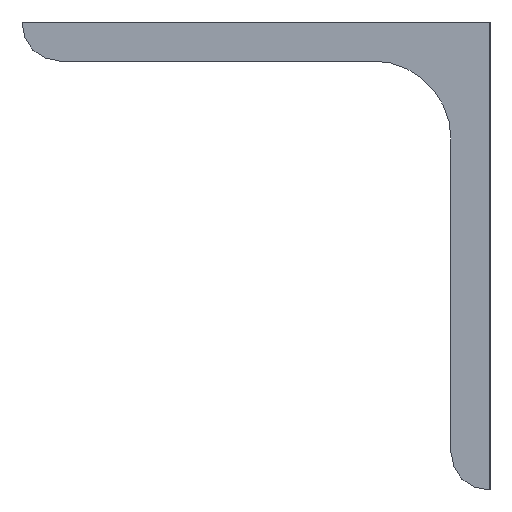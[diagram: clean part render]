
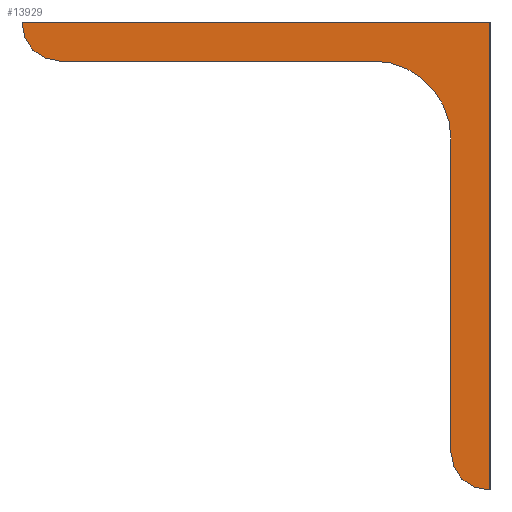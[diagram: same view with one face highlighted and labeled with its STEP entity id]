
A CAD part, left-side view. The second image highlights one B-rep face of the part: STEP entity #13929.
In plain terms, the highlighted planar face has unit normal (-1, 0, 0).
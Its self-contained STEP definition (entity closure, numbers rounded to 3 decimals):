
#345 = CARTESIAN_POINT ( 'NONE',  ( 0., 0., 0. ) ) ;
#383 = CIRCLE ( 'NONE', #10941, 2.4 ) ;
#804 = VERTEX_POINT ( 'NONE', #3415 ) ;
#886 = CARTESIAN_POINT ( 'NONE',  ( 0., 0., -30. ) ) ;
#893 = EDGE_CURVE ( 'NONE', #13852, #804, #10634, .T. ) ;
#1352 = VECTOR ( 'NONE', #13315, 1000. ) ;
#1358 = CARTESIAN_POINT ( 'NONE',  ( 0., 30., -0.1 ) ) ;
#1680 = EDGE_CURVE ( 'NONE', #13936, #5969, #383, .T. ) ;
#1683 = DIRECTION ( 'NONE',  ( 0., 0., 1. ) ) ;
#1709 = CARTESIAN_POINT ( 'NONE',  ( 0., 0., -30. ) ) ;
#2386 = LINE ( 'NONE', #5555, #1352 ) ;
#2401 = AXIS2_PLACEMENT_3D ( 'NONE', #9282, #5925, #10300 ) ;
#2426 = ORIENTED_EDGE ( 'NONE', *, *, #7408, .F. ) ;
#2432 = EDGE_CURVE ( 'NONE', #11946, #6052, #3620, .T. ) ;
#2567 = VERTEX_POINT ( 'NONE', #5087 ) ;
#2642 = ORIENTED_EDGE ( 'NONE', *, *, #12918, .T. ) ;
#2666 = CARTESIAN_POINT ( 'NONE',  ( 0., 30., -0.1 ) ) ;
#2715 = DIRECTION ( 'NONE',  ( -1., 0., 0. ) ) ;
#3415 = CARTESIAN_POINT ( 'NONE',  ( 0., 0.1, -30. ) ) ;
#3532 = VECTOR ( 'NONE', #10273, 1000. ) ;
#3620 = CIRCLE ( 'NONE', #5454, 5. ) ;
#3789 = LINE ( 'NONE', #1358, #13649 ) ;
#4380 = EDGE_LOOP ( 'NONE', ( #11550, #2642, #12122, #10636, #13524, #11878, #4737, #6210, #2426 ) ) ;
#4390 = LINE ( 'NONE', #8786, #14106 ) ;
#4737 = ORIENTED_EDGE ( 'NONE', *, *, #11869, .T. ) ;
#4795 = EDGE_CURVE ( 'NONE', #9940, #7163, #2386, .T. ) ;
#4869 = DIRECTION ( 'NONE',  ( 0., 0., 1. ) ) ;
#4894 = PLANE ( 'NONE',  #2401 ) ;
#5018 = DIRECTION ( 'NONE',  ( 0., 1., 0. ) ) ;
#5087 = CARTESIAN_POINT ( 'NONE',  ( 0., 30., 0. ) ) ;
#5115 = AXIS2_PLACEMENT_3D ( 'NONE', #13606, #9237, #1683 ) ;
#5454 = AXIS2_PLACEMENT_3D ( 'NONE', #11548, #2715, #9333 ) ;
#5483 = CARTESIAN_POINT ( 'NONE',  ( 0., 27.6, -0.1 ) ) ;
#5555 = CARTESIAN_POINT ( 'NONE',  ( 0., 0., 0. ) ) ;
#5731 = VECTOR ( 'NONE', #5018, 1000. ) ;
#5925 = DIRECTION ( 'NONE',  ( -1., 0., 0. ) ) ;
#5969 = VERTEX_POINT ( 'NONE', #13499 ) ;
#5977 = EDGE_CURVE ( 'NONE', #13936, #2567, #3789, .T. ) ;
#6052 = VERTEX_POINT ( 'NONE', #8987 ) ;
#6210 = ORIENTED_EDGE ( 'NONE', *, *, #893, .T. ) ;
#7163 = VERTEX_POINT ( 'NONE', #886 ) ;
#7398 = CARTESIAN_POINT ( 'NONE',  ( 0., 2.5, -7.5 ) ) ;
#7408 = EDGE_CURVE ( 'NONE', #7163, #804, #13780, .T. ) ;
#7664 = LINE ( 'NONE', #7398, #10842 ) ;
#8467 = EDGE_CURVE ( 'NONE', #6052, #5969, #4390, .T. ) ;
#8786 = CARTESIAN_POINT ( 'NONE',  ( 0., 7.5, -2.5 ) ) ;
#8987 = CARTESIAN_POINT ( 'NONE',  ( 0., 7.5, -2.5 ) ) ;
#9083 = FACE_OUTER_BOUND ( 'NONE', #4380, .T. ) ;
#9237 = DIRECTION ( 'NONE',  ( -1., 0., 0. ) ) ;
#9282 = CARTESIAN_POINT ( 'NONE',  ( 0., 0.1, -27.6 ) ) ;
#9333 = DIRECTION ( 'NONE',  ( 0., 0., 1. ) ) ;
#9389 = DIRECTION ( 'NONE',  ( -1., 0., 0. ) ) ;
#9940 = VERTEX_POINT ( 'NONE', #12500 ) ;
#10200 = LINE ( 'NONE', #345, #3532 ) ;
#10273 = DIRECTION ( 'NONE',  ( 0., 1., 0. ) ) ;
#10300 = DIRECTION ( 'NONE',  ( 0., 0., 1. ) ) ;
#10634 = CIRCLE ( 'NONE', #5115, 2.4 ) ;
#10636 = ORIENTED_EDGE ( 'NONE', *, *, #1680, .T. ) ;
#10842 = VECTOR ( 'NONE', #11766, 1000. ) ;
#10941 = AXIS2_PLACEMENT_3D ( 'NONE', #5483, #9389, #13762 ) ;
#11161 = CARTESIAN_POINT ( 'NONE',  ( 0., 2.5, -27.6 ) ) ;
#11325 = CARTESIAN_POINT ( 'NONE',  ( 0., 2.5, -7.5 ) ) ;
#11548 = CARTESIAN_POINT ( 'NONE',  ( 0., 7.5, -7.5 ) ) ;
#11550 = ORIENTED_EDGE ( 'NONE', *, *, #4795, .F. ) ;
#11766 = DIRECTION ( 'NONE',  ( 0., 0., -1. ) ) ;
#11869 = EDGE_CURVE ( 'NONE', #11946, #13852, #7664, .T. ) ;
#11878 = ORIENTED_EDGE ( 'NONE', *, *, #2432, .F. ) ;
#11946 = VERTEX_POINT ( 'NONE', #11325 ) ;
#12122 = ORIENTED_EDGE ( 'NONE', *, *, #5977, .F. ) ;
#12500 = CARTESIAN_POINT ( 'NONE',  ( 0., 0., 0. ) ) ;
#12918 = EDGE_CURVE ( 'NONE', #9940, #2567, #10200, .T. ) ;
#12950 = DIRECTION ( 'NONE',  ( 0., 1., 0. ) ) ;
#13315 = DIRECTION ( 'NONE',  ( 0., 0., -1. ) ) ;
#13499 = CARTESIAN_POINT ( 'NONE',  ( 0., 27.6, -2.5 ) ) ;
#13524 = ORIENTED_EDGE ( 'NONE', *, *, #8467, .F. ) ;
#13606 = CARTESIAN_POINT ( 'NONE',  ( 0., 0.1, -27.6 ) ) ;
#13649 = VECTOR ( 'NONE', #4869, 1000. ) ;
#13762 = DIRECTION ( 'NONE',  ( 0., 0., 1. ) ) ;
#13780 = LINE ( 'NONE', #1709, #5731 ) ;
#13852 = VERTEX_POINT ( 'NONE', #11161 ) ;
#13929 = ADVANCED_FACE ( 'NONE', ( #9083 ), #4894, .T. ) ;
#13936 = VERTEX_POINT ( 'NONE', #2666 ) ;
#14106 = VECTOR ( 'NONE', #12950, 1000. ) ;
